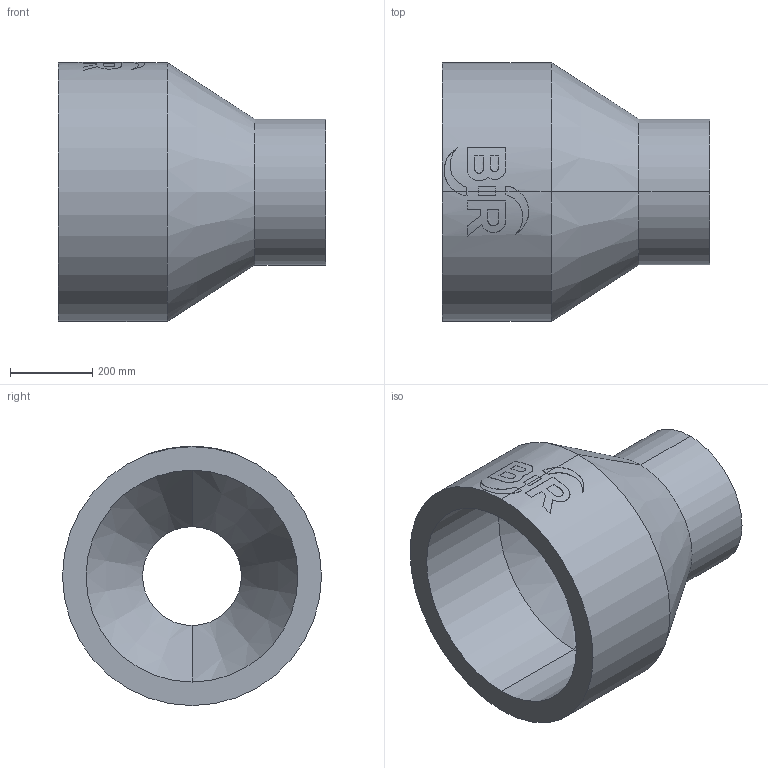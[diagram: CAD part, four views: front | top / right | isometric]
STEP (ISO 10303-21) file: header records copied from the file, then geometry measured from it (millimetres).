
FILE_DESCRIPTION (( 'STEP AP214' ), '1' );
FILE_NAME ('2323292415.STEP', '2018-07-20T09:57:37', ( '' ), ( '' ), 'SwSTEP 2.0', 'SolidWorks 2017', '' );
FILE_SCHEMA (( 'AUTOMOTIVE_DESIGN' ));
Length unit declared in the file: millimetre
Products named in the file (1): 2323292415
Bounding box: 650 x 630 x 630.46 mm (x, y, z)
Volume: 55903713.4 mm3; surface area: 2111721.1 mm2
Topology: 1 solids, 1 shells, 63 faces, 160 edges, 104 vertices
Faces by surface type: cylinder 31, plane 28, cone 4
Entity records: 3576 total; most frequent: CARTESIAN_POINT 1367, ORIENTED_EDGE 320, DIRECTION 296, EDGE_CURVE 160, AXIS2_PLACEMENT_3D 112, VERTEX_POINT 104, VECTOR 72, LINE 72
